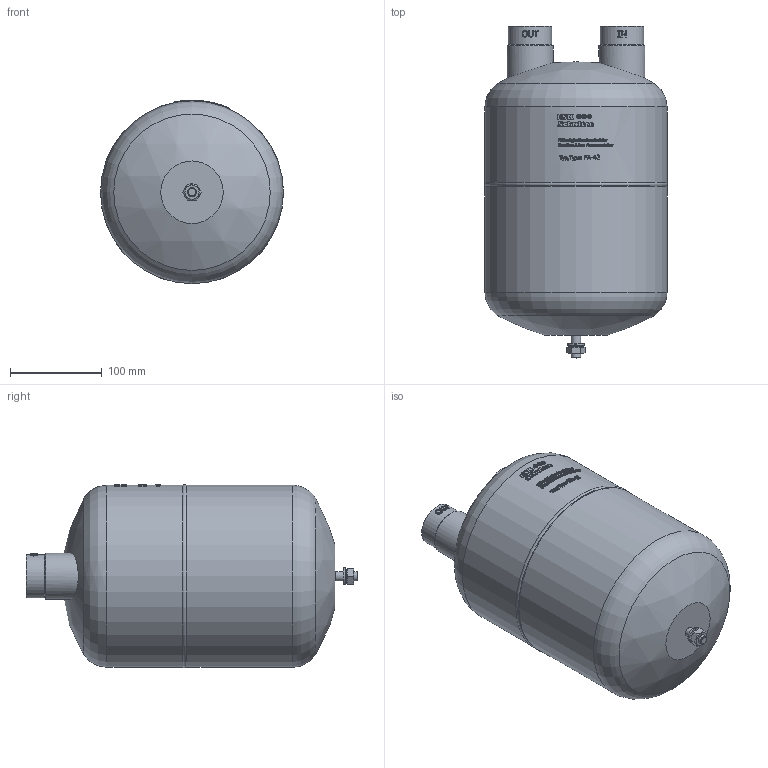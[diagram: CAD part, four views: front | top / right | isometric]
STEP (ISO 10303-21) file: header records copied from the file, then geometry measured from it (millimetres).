
FILE_DESCRIPTION(/* description */ (''),/* implementation_level */ '2;1');
FILE_NAME(/* name */ 'P:\FA\FA-42\FA-42.stp',/* time_stamp */ '2017-10-04T07:43:48+02:00',/* author */ ('neufeld'),/* organization */ (''),/* preprocessor_version */ 'ST-DEVELOPER v16.1',/* originating_system */ 'Autodesk Inventor 2016',/* authorisation */ '');
FILE_SCHEMA (('AUTOMOTIVE_DESIGN { 1 0 10303 214 3 1 1 }'));
Length unit declared in the file: millimetre
Products named in the file (1): FA-42
Bounding box: 198.98 x 361 x 199.49 mm (x, y, z)
Volume: 8317633.2 mm3; surface area: 235490.3 mm2
Topology: 2 solids, 2 shells, 1235 faces, 3348 edges, 2229 vertices
Faces by surface type: plane 688, bspline 419, cylinder 116, cone 6, torus 4, sphere 2
Full cylindrical faces by diameter (mm): 10 x2, 42.2 x2, 47 x2, 50 x2, 198 x2
Entity records: 47692 total; most frequent: CARTESIAN_POINT 18678, ORIENTED_EDGE 6650, DIRECTION 4975, EDGE_CURVE 3325, VERTEX_POINT 2226, AXIS2_PLACEMENT_3D 1685, LINE 1605, VECTOR 1605
